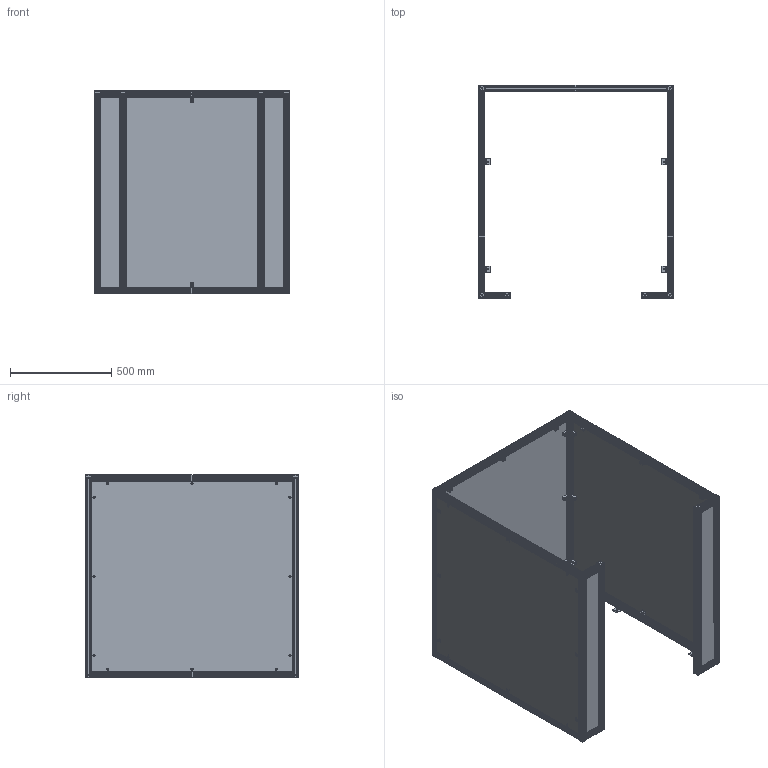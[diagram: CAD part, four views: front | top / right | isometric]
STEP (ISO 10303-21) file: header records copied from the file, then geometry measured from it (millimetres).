
FILE_DESCRIPTION(/* description */ ('Schutzeinhausung, 1050x960x1000 (TxBxH)'),/* implementation_level */ '2;1');
FILE_NAME(/* name */ 'P:\CAD-Daten-für-Kunden\13_Umhausungen\Schutzeinhausung_SE105_ANR35829.stp',/* time_stamp */ '2022-05-09T10:55:24+02:00',/* author */ ('tse'),/* organization */ (''),/* preprocessor_version */ 'ST-DEVELOPER v18',/* originating_system */ 'Autodesk Inventor 2020',/* authorisation */ '');
FILE_SCHEMA (('AUTOMOTIVE_DESIGN { 1 0 10303 214 3 1 1 }'));
Products named in the file (6): 35845; 35845-1; Schutzeinhausung Scheibe 1050x1000; Schutzeinhausung Scheibe 960x1000; Schutzeinhausung Scheibe 155x1000; Schutzeinhausung - Befestigungswinkel
Assembly tree (10 placements, depth 2):
  35845
    35845-1
    Schutzeinhausung Scheibe 1050x1000  x2
    Schutzeinhausung Scheibe 960x1000
    Schutzeinhausung Scheibe 155x1000  x2
    Schutzeinhausung - Befestigungswinkel  x4
Bounding box: 960 x 1050 x 1004 mm (x, y, z)
Volume: 16281905.6 mm3; surface area: 10430077.3 mm2
Topology: 10 solids, 10 shells, 5190 faces, 15447 edges, 9858 vertices
Faces by surface type: plane 3991, cylinder 1011, cone 100, torus 60, sphere 28
Full cylindrical faces by diameter (mm): 5 x22, 5.5 x36, 6 x96, 7 x44, 10.5 x60
Entity records: 169338 total; most frequent: CARTESIAN_POINT 32680, ORIENTED_EDGE 29846, DIRECTION 27099, EDGE_CURVE 14923, LINE 11751, VECTOR 11751, VERTEX_POINT 9528, AXIS2_PLACEMENT_3D 7674
